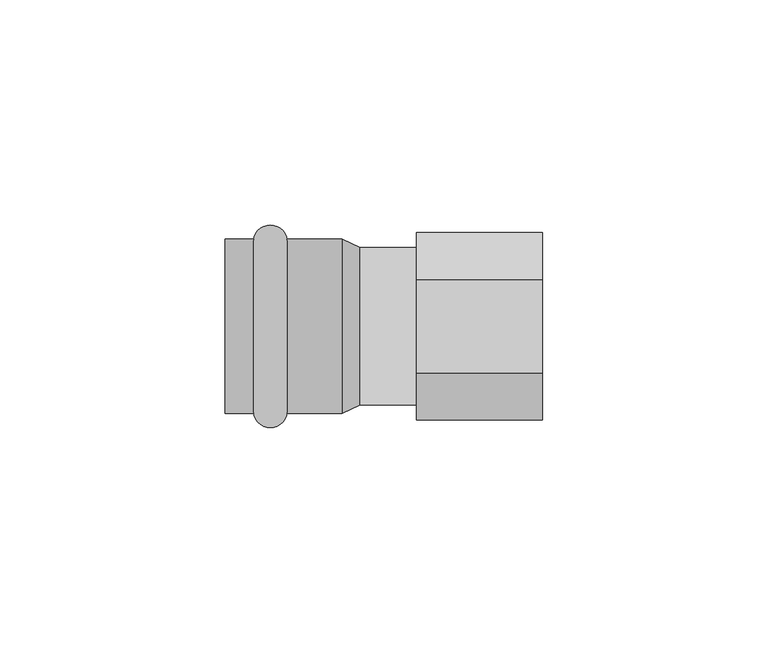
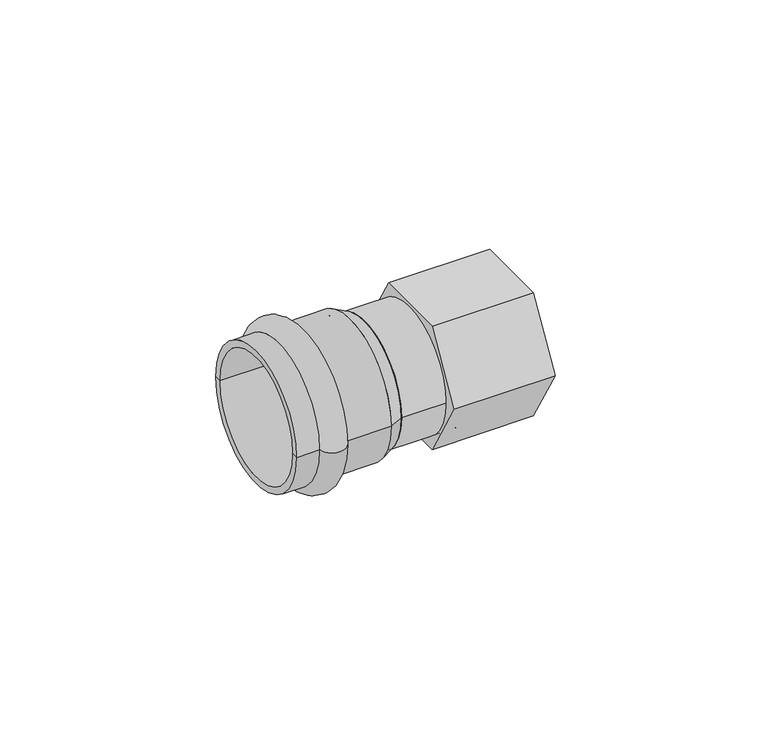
"""IFC4 building model written with IfcOpenShell, lengths in millimetres: pipe fitting geometry, VALTEC_VTi.902.I_Соединитель прямой с переходом на внутреннюю резьбу_Нержавеющая сталь : VTi.902.I."""

from ifc_helpers import new_model, si_unit, point, frame, origin, origin_2d, place, context, project, spatial, polyline, circle_curve, ellipse_curve, trimmed, segment, composite_curve, outline, extrude, source, transform, mapped, element, save
from ifc_brep_helpers import plane_surface, cylinder_surface, revolved_surface, advanced_brep


def pipe_fitting_f6fd3c30(model_context):
    return source(origin(), model_context, "Body", "SolidModel", [
        advanced_brep(
        [(-50.1432371, -19.4, 0.0), (-50.1432371, 19.4, 0.0), (-42.7567629, 19.4, 0.0), (-42.7567629, -19.4, 0.0), (-56.5, -19.4, 0.0), (-56.5, 19.4, 0.0), (-56.5, -17.5, 0.0), (-56.5, 17.5, 0.0), (-30.5, -17.5, 0.0), (-30.5, 17.5, 0.0), (-30.5, -19.4, 0.0), (-30.5, 19.4, 0.0)],
        [
            (0, 1, circle_curve(frame((-50.1432371, 0.0, 0.0), z_axis=(1.0, 0.0, 0.0), x_axis=(0.0, 1.0, 0.0)), 19.4)),
            (1, 2, circle_curve(frame((-46.45, 18.75, 0.0), z_axis=(0.0, 0.0, -1.0), x_axis=(1.0, 0.0, 0.0)), 3.75)),
            (2, 3, circle_curve(frame((-42.7567629, 0.0, 0.0), z_axis=(-1.0, 0.0, 0.0), x_axis=(0.0, 1.0, 0.0)), 19.4)),
            (3, 0, circle_curve(frame((-46.45, -18.75, 0.0), z_axis=(0.0, 0.0, -1.0), x_axis=(1.0, 0.0, 0.0)), 3.75)),
            (1, 0, circle_curve(frame((-50.1432371, 0.0, 0.0), z_axis=(1.0, 0.0, 0.0), x_axis=(0.0, 1.0, 0.0)), 19.4)),
            (3, 2, circle_curve(frame((-42.7567629, 0.0, 0.0), z_axis=(-1.0, 0.0, 0.0), x_axis=(0.0, 1.0, 0.0)), 19.4)),
            (4, 5, circle_curve(frame((-56.5, 0.0, 0.0), z_axis=(1.0, 0.0, 0.0), x_axis=(0.0, 1.0, 0.0)), 19.4)),
            (5, 1),
            (0, 4),
            (5, 4, circle_curve(frame((-56.5, 0.0, 0.0), z_axis=(1.0, 0.0, 0.0), x_axis=(0.0, 1.0, 0.0)), 19.4)),
            (6, 7, circle_curve(frame((-56.5, 0.0, 0.0), z_axis=(1.0, 0.0, 0.0), x_axis=(0.0, 1.0, 0.0)), 17.5)),
            (7, 5),
            (4, 6),
            (7, 6, circle_curve(frame((-56.5, 0.0, 0.0), z_axis=(1.0, 0.0, 0.0), x_axis=(0.0, 1.0, 0.0)), 17.5)),
            (8, 9, circle_curve(frame((-30.5, 0.0, 0.0), z_axis=(1.0, 0.0, 0.0), x_axis=(0.0, 1.0, 0.0)), 17.5)),
            (9, 7),
            (6, 8),
            (9, 8, circle_curve(frame((-30.5, 0.0, 0.0), z_axis=(1.0, 0.0, 0.0), x_axis=(0.0, 1.0, 0.0)), 17.5)),
            (10, 11, circle_curve(frame((-30.5, 0.0, 0.0), z_axis=(1.0, 0.0, 0.0), x_axis=(0.0, 1.0, 0.0)), 19.4)),
            (11, 9),
            (8, 10),
            (11, 10, circle_curve(frame((-30.5, 0.0, 0.0), z_axis=(1.0, 0.0, 0.0), x_axis=(0.0, 1.0, 0.0)), 19.4)),
            (2, 11),
            (10, 3),
        ],
        [
            revolved_surface(trimmed(ellipse_curve(frame((-46.45, 18.75, 0.0), z_axis=(0.0, 0.0, 1.0), x_axis=(1.0, 0.0, 0.0)), 3.75, 3.75), [point((-42.7567629, 19.4, 0.0))], [point((-50.1432371, 19.4, 0.0))], True, "CARTESIAN"), (-60.0364426, 0.0, 0.0), (-1.0, 0.0, 0.0)),
            cylinder_surface(frame((-60.0364426, 0.0, 0.0), z_axis=(-1.0, 0.0, 0.0), x_axis=(0.0, 1.0, 0.0)), 19.4),
            plane_surface(frame((-56.5, 0.0, 0.0), z_axis=(-1.0, 0.0, 0.0), x_axis=(0.0, 1.0, 0.0))),
            revolved_surface(polyline([(-56.5, 17.5, 0.0), (-30.5, 17.5, 0.0)]), (-60.0364426, 0.0, 0.0), (-1.0, 0.0, 0.0)),
            plane_surface(frame((-30.5, 0.0, 0.0), z_axis=(1.0, 0.0, 0.0), x_axis=(0.0, 1.0, 0.0))),
        ],
        [
            (0, [[1, 2, 3, 4]]),
            (0, [[5, -4, 6, -2]]),
            (1, [[7, 8, -1, 9]]),
            (1, [[10, -9, -5, -8]]),
            (2, [[11, 12, -7, 13]]),
            (2, [[14, -13, -10, -12]]),
            (3, [[15, 16, -11, 17]]),
            (3, [[18, -17, -14, -16]]),
            (4, [[19, 20, -15, 21]]),
            (4, [[22, -21, -18, -20]]),
            (1, [[-3, 23, -19, 24]]),
            (1, [[-6, -24, -22, -23]]),
        ],
    ),
        extrude(outline(polyline([(-20.7846097, 0.0), (-10.3923048, 18.0), (10.3923048, 18.0), (20.7846097, 0.0), (10.3923048, -18.0), (-10.3923048, -18.0), (-20.7846097, 0.0)])), frame((-14.0, 0.0, 0.0), z_axis=(1.0, 0.0, 0.0), x_axis=(0.0, 1.0, 0.0)), (0.0, 0.0, 1.0), 28.0),
        extrude(outline(composite_curve([segment(trimmed(circle_curve(origin_2d(), 17.5), [point((-17.5, 0.0))], [point((17.5, 0.0))], False, "CARTESIAN"), True, "CONTINUOUS"), segment(trimmed(circle_curve(origin_2d(), 17.5), [point((17.5, 0.0))], [point((-17.5, 0.0))], False, "CARTESIAN"), True, "CONTINUOUS")], self_intersect=False)), frame((-26.5, 0.0, 0.0), z_axis=(1.0, 0.0, 0.0), x_axis=(0.0, 1.0, 0.0)), (0.0, 0.0, 1.0), 18.0),
        advanced_brep(
        [(-26.5, -17.5, 0.0), (-26.5, 17.5, 0.0), (-30.5, -19.4, 0.0), (-30.5, 19.4, 0.0)],
        [
            (0, 1, circle_curve(frame((-26.5, 0.0, 0.0), z_axis=(1.0, 0.0, 0.0), x_axis=(0.0, -1.0, 0.0)), 17.5)),
            (1, 0, circle_curve(frame((-26.5, 0.0, 0.0), z_axis=(1.0, 0.0, 0.0), x_axis=(0.0, 1.0, 0.0)), 17.5)),
            (2, 3, circle_curve(frame((-30.5, 0.0, 0.0), z_axis=(-1.0, 0.0, 0.0), x_axis=(0.0, 1.0, 0.0)), 19.4)),
            (3, 2, circle_curve(frame((-30.5, 0.0, 0.0), z_axis=(-1.0, 0.0, 0.0), x_axis=(0.0, -1.0, 0.0)), 19.4)),
            (3, 1),
            (0, 2),
        ],
        [
            plane_surface(frame((-26.5, 0.0, 0.0), z_axis=(1.0, 0.0, 0.0), x_axis=(0.0, 0.0, -1.0))),
            plane_surface(frame((-30.5, 0.0, 0.0), z_axis=(-1.0, 0.0, 0.0), x_axis=(0.0, 0.0, -1.0))),
            revolved_surface(polyline([(-26.5, -17.500000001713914, 0.0), (-30.5, -19.4, 0.0)]), (10.3421053, 0.0, 0.0), (-1.0, 0.0, 0.0)),
            revolved_surface(polyline([(-26.5, 17.500000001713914, 0.0), (-30.5, 19.4, 0.0)]), (10.3421053, 0.0, 0.0), (-1.0, 0.0, 0.0)),
        ],
        [
            (0, [[1, 2]]),
            (1, [[3, 4]]),
            (2, [[-4, 5, -1, 6]]),
            (3, [[-3, -6, -2, -5]]),
        ],
    ),
    ])


if __name__ == "__main__":
    model = new_model("IFC4")
    model_context = context("Model", 3, world=origin())
    ifc_project = project(units=[si_unit("LENGTHUNIT", "METRE", prefix="MILLI")], contexts=[model_context])
    site = spatial("IfcSite", under=ifc_project)
    building = spatial("IfcBuilding", under=site)
    placement = place(None, origin())
    pipe_fitting_shape = pipe_fitting_f6fd3c30(model_context)
    element("IfcPipeFitting", 1, ObjectType="VALTEC_VTi.902.I_Соединитель прямой с переходом на внутреннюю резьбу_Нержавеющая сталь : VTi.902.I", at=placement, inside=building, context=model_context, shape_type="MappedRepresentation", body=[
        mapped(pipe_fitting_shape, transform((0.0, 0.0, 0.0), x_axis=(1.0, 0.0, 0.0), y_axis=(0.0, 1.0, 0.0), z_axis=(0.0, 0.0, 1.0))),
    ])
    save(model, "model.ifc")
